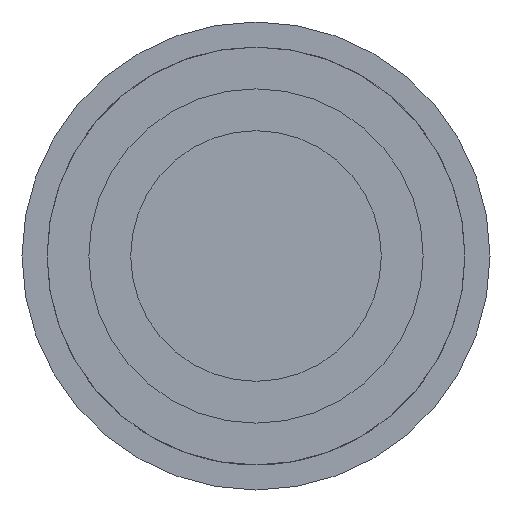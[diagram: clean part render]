
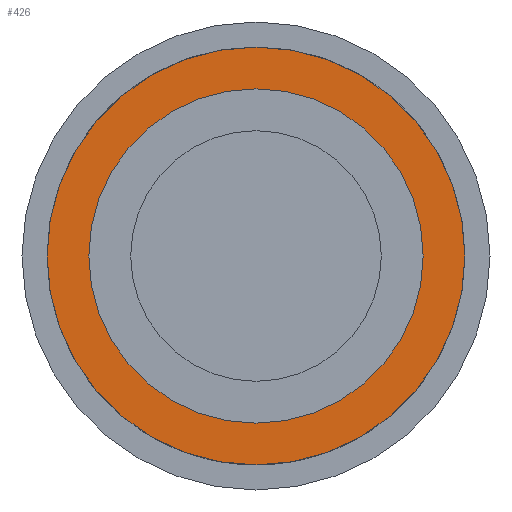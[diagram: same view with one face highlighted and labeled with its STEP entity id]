
A CAD part, left-side view. The second image highlights one B-rep face of the part: STEP entity #426.
In plain terms, the highlighted planar face has unit normal (-1, 0, 0).
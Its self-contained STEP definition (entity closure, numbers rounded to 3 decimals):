
#395=CARTESIAN_POINT('',(80.0,0.0,12.5));
#396=VERTEX_POINT('',#395);
#397=CARTESIAN_POINT('',(80.0,0.0,0.));
#398=DIRECTION('',(-1.0,0.0,0.0));
#399=DIRECTION('',(0.0,0.0,1.0));
#400=AXIS2_PLACEMENT_3D('',#397,#398,#399);
#401=CIRCLE('',#400,12.5);
#402=EDGE_CURVE('',#396,#396,#401,.T.);
#407=CARTESIAN_POINT('',(80.0,0.0,11.25));
#408=DIRECTION('',(-1.0,0.0,0.0));
#409=DIRECTION('',(0.0,0.0,1.0));
#410=AXIS2_PLACEMENT_3D('',#407,#408,#409);
#411=PLANE('',#410);
#412=ORIENTED_EDGE('',*,*,#402,.T.);
#413=EDGE_LOOP('',(#412));
#414=FACE_OUTER_BOUND('',#413,.T.);
#415=CARTESIAN_POINT('',(80.0,0.0,10.));
#416=VERTEX_POINT('',#415);
#417=CARTESIAN_POINT('',(80.0,0.0,0.));
#418=DIRECTION('',(-1.0,0.0,0.0));
#419=DIRECTION('',(0.0,0.0,1.0));
#420=AXIS2_PLACEMENT_3D('',#417,#418,#419);
#421=CIRCLE('',#420,10.);
#422=EDGE_CURVE('',#416,#416,#421,.T.);
#423=ORIENTED_EDGE('',*,*,#422,.F.);
#424=EDGE_LOOP('',(#423));
#425=FACE_BOUND('',#424,.T.);
#426=ADVANCED_FACE('',(#414,#425),#411,.T.);
